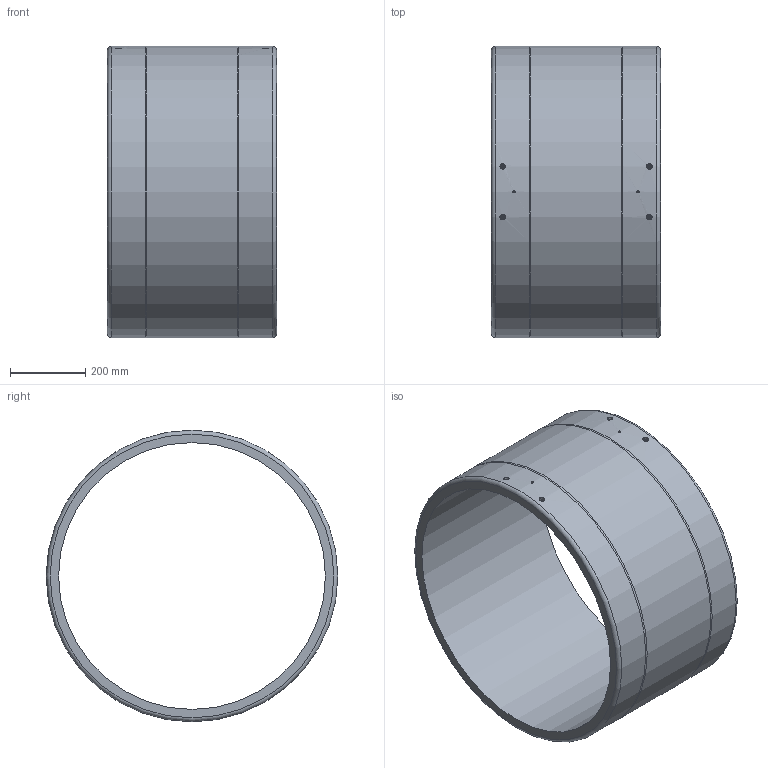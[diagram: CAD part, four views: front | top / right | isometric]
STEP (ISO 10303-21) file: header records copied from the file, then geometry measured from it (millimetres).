
FILE_DESCRIPTION(/* description */ ('Unknown'),/* implementation_level */ '2;1');
FILE_NAME(/* name */ 'MP710A',/* time_stamp */ '2021-06-23T15:45:54+02:00',/* author */ ('Unknown'),/* organization */ ('Unknown'),/* preprocessor_version */ 'ST-DEVELOPER v16.7',/* originating_system */ 'Solid Edge',/* authorisation */ 'Unknown');
FILE_SCHEMA (('AUTOMOTIVE_DESIGN {1 0 10303 214 3 1 1}'));
Length unit declared in the file: millimetre
Products named in the file (1): MP710A
Bounding box: 450 x 776 x 776 mm (x, y, z)
Volume: 34302076.7 mm3; surface area: 2233860.9 mm2
Topology: 1 solids, 1 shells, 34 faces, 67 edges, 43 vertices
Faces by surface type: cylinder 14, plane 12, bspline 4, cone 2, torus 2
Full cylindrical faces by diameter (mm): 4 x4, 6 x2, 13 x4, 710 x1, 775 x2, 776 x1
Entity records: 1104 total; most frequent: CARTESIAN_POINT 531, DIRECTION 110, ORIENTED_EDGE 68, EDGE_LOOP 68, FACE_BOUND 68, AXIS2_PLACEMENT_3D 55, EDGE_CURVE 34, VERTEX_POINT 34
